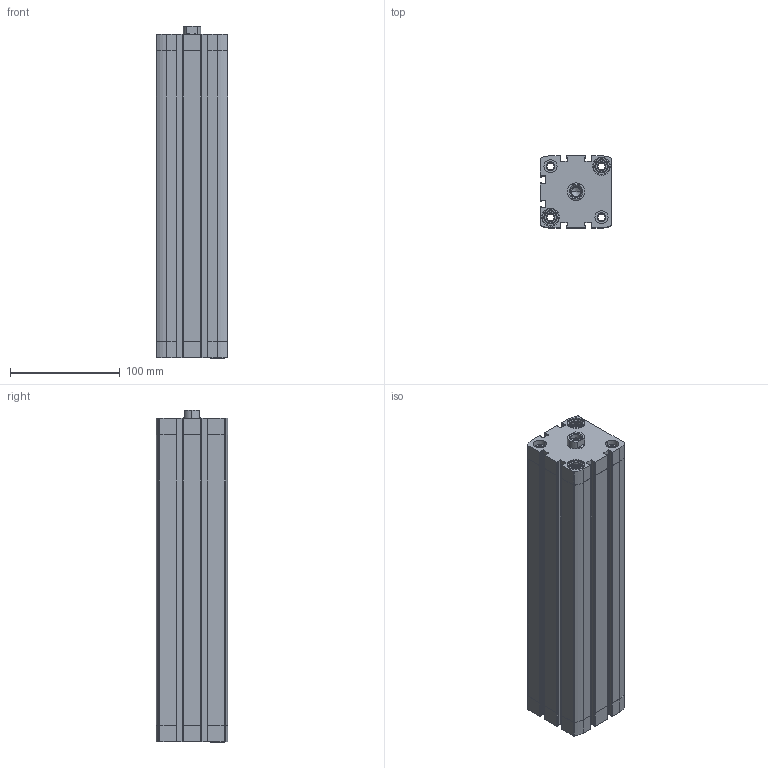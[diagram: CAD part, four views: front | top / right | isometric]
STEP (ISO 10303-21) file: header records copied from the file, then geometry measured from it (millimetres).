
FILE_DESCRIPTION (( 'STEP AP203' ), '1' );
FILE_NAME ('CCN50-250F.STEP', '2017-04-03T16:09:07', ( '' ), ( '' ), 'SwSTEP 2.0', 'SolidWorks 2016', '' );
FILE_SCHEMA (( 'CONFIG_CONTROL_DESIGN' ));
Length unit declared in the file: millimetre
Products named in the file (3): CCN50-250F; CCN-250---(Z); CCN-250_(KS)
Assembly tree (2 placements, depth 2):
  CCN50-250F
    CCN-250---(Z)
    CCN-250_(KS)
Bounding box: 65.5 x 65.5 x 302.7 mm (x, y, z)
Volume: 694211.5 mm3; surface area: 198220.1 mm2
Topology: 2 solids, 2 shells, 471 faces, 1270 edges, 833 vertices
Faces by surface type: plane 219, cylinder 210, cone 42
Entity records: 15269 total; most frequent: CARTESIAN_POINT 2871, DIRECTION 2588, ORIENTED_EDGE 2536, EDGE_CURVE 1268, AXIS2_PLACEMENT_3D 942, VERTEX_POINT 833, LINE 704, VECTOR 704
